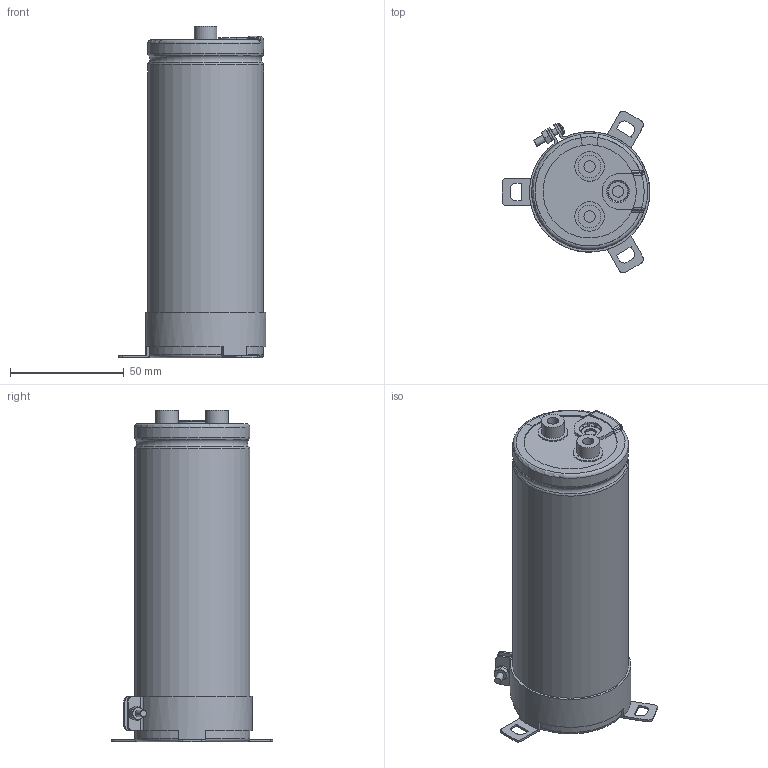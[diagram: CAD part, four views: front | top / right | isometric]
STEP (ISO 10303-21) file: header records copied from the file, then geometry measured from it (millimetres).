
FILE_DESCRIPTION(/* description */ (''),/* implementation_level */ '2;1');
FILE_NAME(/* name */ '51x140_Screw.stp',/* time_stamp */ '2017-09-15T14:01:46+09:00',/* author */ (''),/* organization */ (''),/* preprocessor_version */ 'ST-DEVELOPER v16',/* originating_system */ 'SIEMENS PLM Software NX 11.0',/* authorisation */ '');
FILE_SCHEMA (('AUTOMOTIVE_DESIGN { 1 0 10303 214 3 1 1 1 }'));
Length unit declared in the file: millimetre
Products named in the file (1): 51x140_Screw
Bounding box: 65 x 71.22 x 146 mm (x, y, z)
Volume: 287980.4 mm3; surface area: 81355.1 mm2
Topology: 9 solids, 9 shells, 298 faces, 744 edges, 471 vertices
Faces by surface type: plane 118, cylinder 78, torus 54, cone 31, bspline 12, sphere 5
Full cylindrical faces by diameter (mm): 3 x5, 5 x6, 5.5 x2, 10 x4, 13 x2, 49.8 x2
Entity records: 10562 total; most frequent: CARTESIAN_POINT 3129, DIRECTION 1450, ORIENTED_EDGE 1410, EDGE_CURVE 705, AXIS2_PLACEMENT_3D 606, VERTEX_POINT 464, EDGE_LOOP 353, CIRCLE 319
